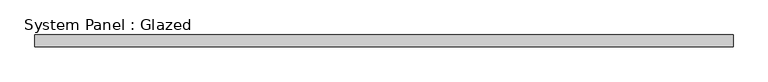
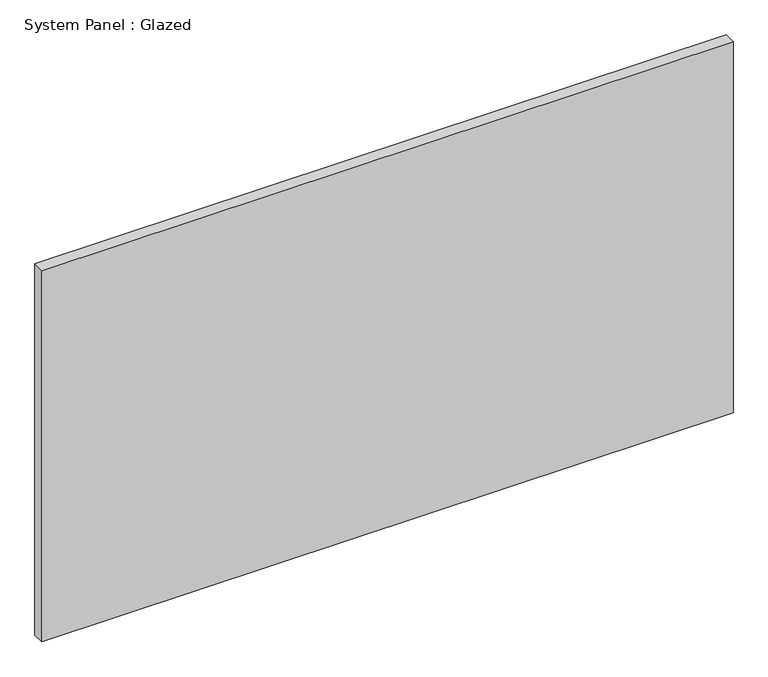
"""IFC4 building model written with IfcOpenShell, lengths in millimetres: plate geometry, System Panel : Glazed."""

from ifc_helpers import new_model, si_unit, origin, origin_with_axes, place, context, project, spatial, polyline, outline, extrude, source, transform, mapped, element, save


def system_panel_glazed_8d4e5907(model_context):
    return source(origin(), model_context, "Body", "SweptSolid", [
        extrude(outline(polyline([(749.3, 19.05), (-749.3, 19.05), (-749.3, 44.45), (749.3, 44.45), (749.3, 19.05)])), origin_with_axes(), (0.0, 0.0, 1.0), 850.9),
    ])


if __name__ == "__main__":
    model = new_model("IFC4")
    model_context = context("Model", 3, world=origin())
    ifc_project = project(units=[si_unit("LENGTHUNIT", "METRE", prefix="MILLI")], contexts=[model_context])
    site = spatial("IfcSite", under=ifc_project)
    building = spatial("IfcBuilding", under=site)
    placement = place(None, origin())
    system_panel_glazed_shape = system_panel_glazed_8d4e5907(model_context)
    element("IfcPlate", 1, ObjectType="System Panel : Glazed", at=placement, inside=building, context=model_context, shape_type="MappedRepresentation", body=[
        mapped(system_panel_glazed_shape, transform((0.0, 0.0, 0.0), x_axis=(1.0, 0.0, 0.0), y_axis=(0.0, 1.0, 0.0), z_axis=(0.0, 0.0, 1.0))),
    ])
    save(model, "model.ifc")
